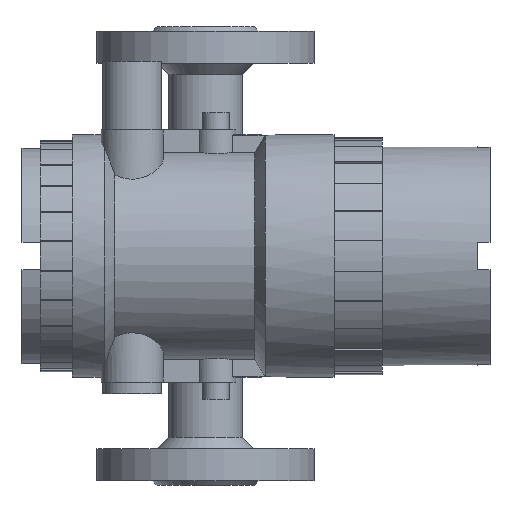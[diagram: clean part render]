
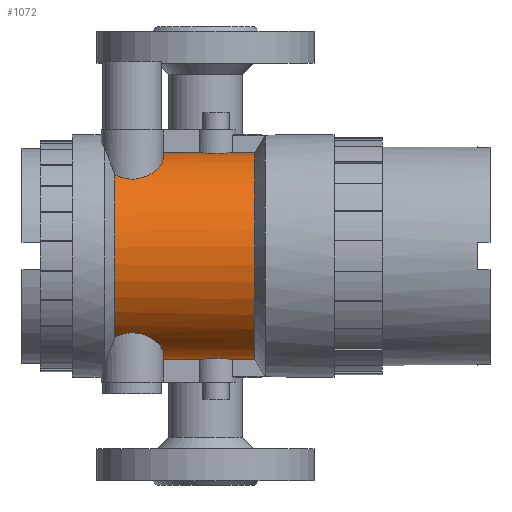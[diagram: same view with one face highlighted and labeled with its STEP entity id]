
A CAD part, left-side view. The second image highlights one B-rep face of the part: STEP entity #1072.
In plain terms, the highlighted cylindrical face has radius 45.45 mm (diameter 90.9 mm), a partial arc.
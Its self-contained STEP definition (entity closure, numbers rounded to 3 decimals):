
#63=B_SPLINE_CURVE_WITH_KNOTS('',3,(#6275,#6276,#6277,#6278,#6279,#6280,
#6281,#6282,#6283,#6284),.UNSPECIFIED.,.F.,.F.,(4,2,2,2,4),(0.,0.25,0.5,
0.75,1.),.UNSPECIFIED.);
#69=B_SPLINE_CURVE_WITH_KNOTS('',3,(#6330,#6331,#6332,#6333,#6334,#6335,
#6336,#6337,#6338,#6339),.UNSPECIFIED.,.F.,.F.,(4,2,2,2,4),(0.,0.25,0.5,
0.75,1.),.UNSPECIFIED.);
#74=B_SPLINE_CURVE_WITH_KNOTS('',3,(#6426,#6427,#6428,#6429,#6430,#6431),
 .UNSPECIFIED.,.F.,.F.,(4,2,4),(0.,0.5,1.),.UNSPECIFIED.);
#75=B_SPLINE_CURVE_WITH_KNOTS('',3,(#6432,#6433,#6434,#6435,#6436,#6437),
 .UNSPECIFIED.,.F.,.F.,(4,2,4),(0.,0.5,1.),.UNSPECIFIED.);
#286=CYLINDRICAL_SURFACE('',#4189,45.45);
#578=LINE('',#6380,#876);
#584=LINE('',#6396,#882);
#589=LINE('',#6422,#887);
#591=LINE('',#6439,#889);
#876=VECTOR('',#5193,1.);
#882=VECTOR('',#5207,1.);
#887=VECTOR('',#5218,1.);
#889=VECTOR('',#5222,1.);
#1072=ADVANCED_FACE('',(#1386),#286,.T.);
#1386=FACE_OUTER_BOUND('',#1589,.T.);
#1589=EDGE_LOOP('',(#2567,#2568,#2569,#2570,#2571,#2572,#2573,#2574,#2575,
#2576,#2577,#2578));
#2567=ORIENTED_EDGE('',*,*,#3579,.T.);
#2568=ORIENTED_EDGE('',*,*,#3561,.T.);
#2569=ORIENTED_EDGE('',*,*,#3539,.T.);
#2570=ORIENTED_EDGE('',*,*,#3577,.T.);
#2571=ORIENTED_EDGE('',*,*,#3580,.T.);
#2572=ORIENTED_EDGE('',*,*,#3581,.T.);
#2573=ORIENTED_EDGE('',*,*,#3548,.T.);
#2574=ORIENTED_EDGE('',*,*,#3544,.T.);
#2575=ORIENTED_EDGE('',*,*,#3534,.F.);
#2576=ORIENTED_EDGE('',*,*,#3532,.T.);
#2577=ORIENTED_EDGE('',*,*,#3525,.T.);
#2578=ORIENTED_EDGE('',*,*,#3569,.T.);
#3024=VERTEX_POINT('',#6258);
#3025=VERTEX_POINT('',#6259);
#3031=VERTEX_POINT('',#6285);
#3032=VERTEX_POINT('',#6294);
#3036=VERTEX_POINT('',#6311);
#3037=VERTEX_POINT('',#6313);
#3041=VERTEX_POINT('',#6340);
#3044=VERTEX_POINT('',#6348);
#3053=VERTEX_POINT('',#6381);
#3059=VERTEX_POINT('',#6397);
#3065=VERTEX_POINT('',#6423);
#3066=VERTEX_POINT('',#6438);
#3525=EDGE_CURVE('',#3024,#3025,#3798,.T.);
#3532=EDGE_CURVE('',#3031,#3024,#63,.T.);
#3534=EDGE_CURVE('',#3031,#3032,#3800,.T.);
#3539=EDGE_CURVE('',#3037,#3036,#3803,.T.);
#3544=EDGE_CURVE('',#3041,#3032,#69,.T.);
#3548=EDGE_CURVE('',#3044,#3041,#3807,.T.);
#3561=EDGE_CURVE('',#3053,#3037,#578,.T.);
#3569=EDGE_CURVE('',#3025,#3059,#584,.T.);
#3577=EDGE_CURVE('',#3036,#3065,#589,.T.);
#3579=EDGE_CURVE('',#3059,#3053,#74,.T.);
#3580=EDGE_CURVE('',#3065,#3066,#75,.T.);
#3581=EDGE_CURVE('',#3066,#3044,#591,.T.);
#3798=CIRCLE('',#4155,45.45);
#3800=CIRCLE('',#4159,45.45);
#3803=CIRCLE('',#4163,45.45);
#3807=CIRCLE('',#4171,45.45);
#4155=AXIS2_PLACEMENT_3D('',#6257,#5129,#5130);
#4159=AXIS2_PLACEMENT_3D('',#6293,#5141,#5142);
#4163=AXIS2_PLACEMENT_3D('',#6312,#5149,#5150);
#4171=AXIS2_PLACEMENT_3D('',#6347,#5167,#5168);
#4189=AXIS2_PLACEMENT_3D('',#6440,#5223,#5224);
#5129=DIRECTION('',(0.,-1.,0.));
#5130=DIRECTION('',(1.,0.,0.));
#5141=DIRECTION('',(0.,1.,0.));
#5142=DIRECTION('',(-1.,0.,0.));
#5149=DIRECTION('',(0.,1.,0.));
#5150=DIRECTION('',(-1.,0.,0.));
#5167=DIRECTION('',(0.,-1.,0.));
#5168=DIRECTION('',(1.,0.,0.));
#5193=DIRECTION('',(0.,-1.,0.));
#5207=DIRECTION('',(0.,-1.,0.));
#5218=DIRECTION('',(0.,1.,0.));
#5222=DIRECTION('',(0.,1.,0.));
#5223=DIRECTION('',(0.,1.,0.));
#5224=DIRECTION('',(1.,0.,0.));
#6257=CARTESIAN_POINT('',(0.,18.5,-123.5));
#6258=CARTESIAN_POINT('',(-17.25,18.5,-165.549));
#6259=CARTESIAN_POINT('',(-5.,18.5,-168.674));
#6275=CARTESIAN_POINT('',(-28.475,39.5,-158.924));
#6276=CARTESIAN_POINT('',(-29.81,37.502,-157.851));
#6277=CARTESIAN_POINT('',(-30.661,35.049,-157.05));
#6278=CARTESIAN_POINT('',(-30.826,29.797,-156.899));
#6279=CARTESIAN_POINT('',(-30.103,27.216,-157.589));
#6280=CARTESIAN_POINT('',(-27.645,23.054,-159.611));
#6281=CARTESIAN_POINT('',(-25.948,21.425,-160.888));
#6282=CARTESIAN_POINT('',(-21.971,19.147,-163.355));
#6283=CARTESIAN_POINT('',(-19.688,18.5,-164.549));
#6284=CARTESIAN_POINT('',(-17.25,18.5,-165.549));
#6285=CARTESIAN_POINT('',(-28.475,39.5,-158.924));
#6293=CARTESIAN_POINT('',(0.,39.5,-123.5));
#6294=CARTESIAN_POINT('',(-28.475,39.5,-88.076));
#6311=CARTESIAN_POINT('',(-5.,-21.5,-78.326));
#6312=CARTESIAN_POINT('',(0.,-21.5,-123.5));
#6313=CARTESIAN_POINT('',(-5.,-21.5,-168.674));
#6330=CARTESIAN_POINT('',(-17.25,18.5,-81.451));
#6331=CARTESIAN_POINT('',(-19.686,18.5,-82.45));
#6332=CARTESIAN_POINT('',(-21.976,19.149,-83.648));
#6333=CARTESIAN_POINT('',(-25.945,21.423,-86.11));
#6334=CARTESIAN_POINT('',(-27.64,23.053,-87.386));
#6335=CARTESIAN_POINT('',(-30.088,27.184,-89.399));
#6336=CARTESIAN_POINT('',(-30.819,29.779,-90.095));
#6337=CARTESIAN_POINT('',(-30.67,34.992,-89.958));
#6338=CARTESIAN_POINT('',(-29.813,37.498,-89.151));
#6339=CARTESIAN_POINT('',(-28.475,39.5,-88.076));
#6340=CARTESIAN_POINT('',(-17.25,18.5,-81.451));
#6347=CARTESIAN_POINT('',(0.,18.5,-123.5));
#6348=CARTESIAN_POINT('',(-5.,18.5,-78.326));
#6380=CARTESIAN_POINT('',(-5.,-123.5,-168.674));
#6381=CARTESIAN_POINT('',(-5.,-11.681,-168.674));
#6396=CARTESIAN_POINT('',(-5.,-123.5,-168.674));
#6397=CARTESIAN_POINT('',(-5.,2.681,-168.674));
#6422=CARTESIAN_POINT('',(-5.,-123.5,-78.326));
#6423=CARTESIAN_POINT('',(-5.,-11.681,-78.326));
#6426=CARTESIAN_POINT('',(-5.,2.681,-168.674));
#6427=CARTESIAN_POINT('',(-7.321,1.064,-168.417));
#6428=CARTESIAN_POINT('',(-8.747,-1.672,-168.1));
#6429=CARTESIAN_POINT('',(-8.753,-7.31,-168.099));
#6430=CARTESIAN_POINT('',(-7.321,-10.064,-168.417));
#6431=CARTESIAN_POINT('',(-5.,-11.681,-168.674));
#6432=CARTESIAN_POINT('',(-5.,-11.681,-78.326));
#6433=CARTESIAN_POINT('',(-7.321,-10.064,-78.583));
#6434=CARTESIAN_POINT('',(-8.747,-7.328,-78.9));
#6435=CARTESIAN_POINT('',(-8.753,-1.69,-78.901));
#6436=CARTESIAN_POINT('',(-7.321,1.064,-78.583));
#6437=CARTESIAN_POINT('',(-5.,2.681,-78.326));
#6438=CARTESIAN_POINT('',(-5.,2.681,-78.326));
#6439=CARTESIAN_POINT('',(-5.,-123.5,-78.326));
#6440=CARTESIAN_POINT('',(0.,-123.5,-123.5));
